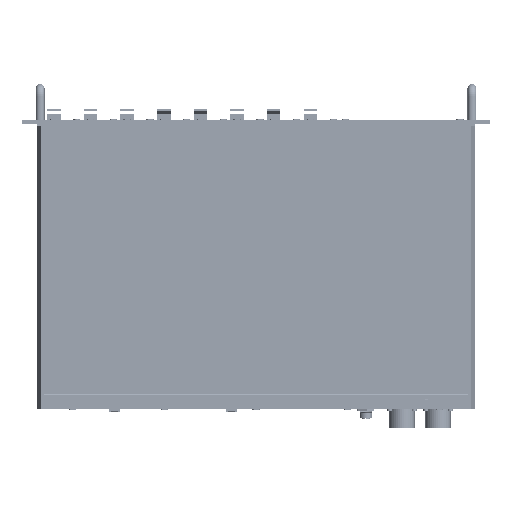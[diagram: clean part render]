
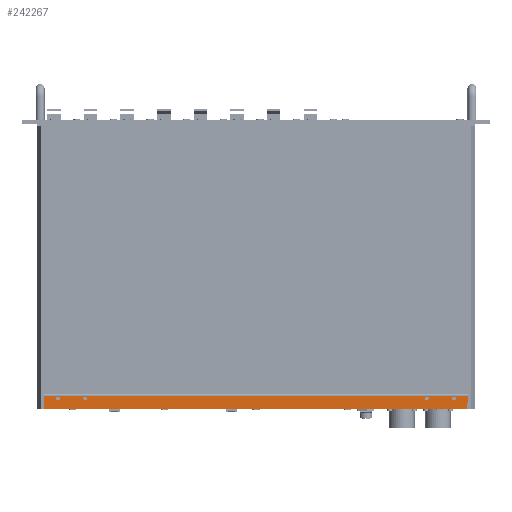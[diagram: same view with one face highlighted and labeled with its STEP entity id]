
A CAD part, front view. The second image highlights one B-rep face of the part: STEP entity #242267.
In plain terms, the highlighted planar face has unit normal (0, -1, 0).
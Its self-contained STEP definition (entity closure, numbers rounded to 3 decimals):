
#9260 = VERTEX_POINT ( 'NONE', #173829 ) ;
#12338 = ORIENTED_EDGE ( 'NONE', *, *, #47868, .F. ) ;
#13663 = CARTESIAN_POINT ( 'NONE',  ( 163.271, 51.251, 158.45 ) ) ;
#17633 = CIRCLE ( 'NONE', #646565, 2.1 ) ;
#22359 = EDGE_CURVE ( 'NONE', #438002, #628099, #455274, .T. ) ;
#43206 = FACE_BOUND ( 'NONE', #233848, .T. ) ;
#43323 = ORIENTED_EDGE ( 'NONE', *, *, #338818, .F. ) ;
#47868 = EDGE_CURVE ( 'NONE', #148248, #128884, #173130, .T. ) ;
#52617 = ORIENTED_EDGE ( 'NONE', *, *, #559470, .F. ) ;
#59604 = AXIS2_PLACEMENT_3D ( 'NONE', #485548, #274115, #160257 ) ;
#61140 = DIRECTION ( 'NONE',  ( 0., -1., 0. ) ) ;
#64409 = CARTESIAN_POINT ( 'NONE',  ( 178.271, 51.251, 161.25 ) ) ;
#69361 = CARTESIAN_POINT ( 'NONE',  ( 163.271, 51.251, 158.45 ) ) ;
#72929 = AXIS2_PLACEMENT_3D ( 'NONE', #238651, #290946, #613680 ) ;
#89006 = EDGE_CURVE ( 'NONE', #423022, #549730, #538747, .T. ) ;
#103605 = ORIENTED_EDGE ( 'NONE', *, *, #229871, .F. ) ;
#106610 = CARTESIAN_POINT ( 'NONE',  ( -290.729, 51.251, 161.25 ) ) ;
#128702 = DIRECTION ( 'NONE',  ( 0., 0., -1. ) ) ;
#128884 = VERTEX_POINT ( 'NONE', #258491 ) ;
#131151 = EDGE_CURVE ( 'NONE', #9260, #495130, #360442, .T. ) ;
#137890 = DIRECTION ( 'NONE',  ( 1., 0., 0. ) ) ;
#148248 = VERTEX_POINT ( 'NONE', #634878 ) ;
#155852 = VERTEX_POINT ( 'NONE', #308033 ) ;
#156460 = VECTOR ( 'NONE', #167592, 1000. ) ;
#160257 = DIRECTION ( 'NONE',  ( 0., 0., 1. ) ) ;
#167592 = DIRECTION ( 'NONE',  ( 0., 0., 1. ) ) ;
#172727 = EDGE_LOOP ( 'NONE', ( #468544, #103605 ) ) ;
#173130 = CIRCLE ( 'NONE', #437589, 2.1 ) ;
#173829 = CARTESIAN_POINT ( 'NONE',  ( -275.729, 51.251, 156.35 ) ) ;
#183938 = EDGE_CURVE ( 'NONE', #647688, #195046, #388948, .T. ) ;
#185597 = DIRECTION ( 'NONE',  ( 0., 0., 1. ) ) ;
#195046 = VERTEX_POINT ( 'NONE', #64409 ) ;
#204512 = FACE_BOUND ( 'NONE', #637909, .T. ) ;
#215733 = CARTESIAN_POINT ( 'NONE',  ( -245.729, 51.251, 156.35 ) ) ;
#229871 = EDGE_CURVE ( 'NONE', #628099, #438002, #543918, .T. ) ;
#230400 = FACE_BOUND ( 'NONE', #172727, .T. ) ;
#233848 = EDGE_LOOP ( 'NONE', ( #436991, #12338 ) ) ;
#234764 = AXIS2_PLACEMENT_3D ( 'NONE', #287788, #456168, #185597 ) ;
#238651 = CARTESIAN_POINT ( 'NONE',  ( 133.271, 51.251, 158.45 ) ) ;
#242267 = ADVANCED_FACE ( 'NONE', ( #204512, #230400, #43206, #578594, #646503 ), #421554, .F. ) ;
#258491 = CARTESIAN_POINT ( 'NONE',  ( 163.271, 51.251, 160.55 ) ) ;
#266531 = EDGE_LOOP ( 'NONE', ( #52617, #500149 ) ) ;
#267189 = DIRECTION ( 'NONE',  ( 1., 0., 0. ) ) ;
#274115 = DIRECTION ( 'NONE',  ( 0., -1., 0. ) ) ;
#276196 = DIRECTION ( 'NONE',  ( 0., -1., 0. ) ) ;
#281353 = DIRECTION ( 'NONE',  ( 0., -1., 0. ) ) ;
#287788 = CARTESIAN_POINT ( 'NONE',  ( -245.729, 51.251, 158.45 ) ) ;
#290946 = DIRECTION ( 'NONE',  ( 0., -1., 0. ) ) ;
#308033 = CARTESIAN_POINT ( 'NONE',  ( -245.729, 51.251, 160.55 ) ) ;
#324041 = DIRECTION ( 'NONE',  ( 0., 0., -1. ) ) ;
#324401 = CARTESIAN_POINT ( 'NONE',  ( -290.729, 51.251, 161.25 ) ) ;
#326151 = CARTESIAN_POINT ( 'NONE',  ( -275.729, 51.251, 158.45 ) ) ;
#337826 = VECTOR ( 'NONE', #401620, 1000. ) ;
#338818 = EDGE_CURVE ( 'NONE', #155852, #396812, #626292, .T. ) ;
#353175 = AXIS2_PLACEMENT_3D ( 'NONE', #499728, #281353, #502102 ) ;
#356186 = CARTESIAN_POINT ( 'NONE',  ( 133.271, 51.251, 160.55 ) ) ;
#360442 = CIRCLE ( 'NONE', #59604, 2.1 ) ;
#361069 = AXIS2_PLACEMENT_3D ( 'NONE', #535477, #433263, #324041 ) ;
#374003 = VECTOR ( 'NONE', #137890, 1000. ) ;
#381630 = ORIENTED_EDGE ( 'NONE', *, *, #183938, .T. ) ;
#385488 = DIRECTION ( 'NONE',  ( 0., 0., 1. ) ) ;
#388948 = LINE ( 'NONE', #617470, #337826 ) ;
#396812 = VERTEX_POINT ( 'NONE', #215733 ) ;
#401359 = EDGE_CURVE ( 'NONE', #128884, #148248, #526933, .T. ) ;
#401620 = DIRECTION ( 'NONE',  ( 0., 0., 1. ) ) ;
#410905 = CIRCLE ( 'NONE', #593675, 2.1 ) ;
#421554 = PLANE ( 'NONE',  #361069 ) ;
#423022 = VERTEX_POINT ( 'NONE', #504296 ) ;
#433263 = DIRECTION ( 'NONE',  ( 0., 1., 0. ) ) ;
#436991 = ORIENTED_EDGE ( 'NONE', *, *, #401359, .F. ) ;
#437589 = AXIS2_PLACEMENT_3D ( 'NONE', #69361, #449142, #128702 ) ;
#438002 = VERTEX_POINT ( 'NONE', #356186 ) ;
#447896 = DIRECTION ( 'NONE',  ( 0., 0., -1. ) ) ;
#449142 = DIRECTION ( 'NONE',  ( 0., -1., 0. ) ) ;
#455274 = CIRCLE ( 'NONE', #353175, 2.1 ) ;
#456168 = DIRECTION ( 'NONE',  ( 0., -1., 0. ) ) ;
#468544 = ORIENTED_EDGE ( 'NONE', *, *, #22359, .F. ) ;
#485548 = CARTESIAN_POINT ( 'NONE',  ( -275.729, 51.251, 158.45 ) ) ;
#495130 = VERTEX_POINT ( 'NONE', #642551 ) ;
#498578 = AXIS2_PLACEMENT_3D ( 'NONE', #13663, #61140, #447896 ) ;
#499668 = ORIENTED_EDGE ( 'NONE', *, *, #89006, .F. ) ;
#499728 = CARTESIAN_POINT ( 'NONE',  ( 133.271, 51.251, 158.45 ) ) ;
#500149 = ORIENTED_EDGE ( 'NONE', *, *, #131151, .F. ) ;
#502102 = DIRECTION ( 'NONE',  ( 0., 0., -1. ) ) ;
#504296 = CARTESIAN_POINT ( 'NONE',  ( -290.729, 51.251, 146.45 ) ) ;
#505588 = ORIENTED_EDGE ( 'NONE', *, *, #679594, .T. ) ;
#526933 = CIRCLE ( 'NONE', #498578, 2.1 ) ;
#535477 = CARTESIAN_POINT ( 'NONE',  ( -290.729, 51.251, 161.25 ) ) ;
#538747 = LINE ( 'NONE', #324401, #156460 ) ;
#543918 = CIRCLE ( 'NONE', #72929, 2.1 ) ;
#546846 = CARTESIAN_POINT ( 'NONE',  ( 133.271, 51.251, 156.35 ) ) ;
#549730 = VERTEX_POINT ( 'NONE', #106610 ) ;
#550735 = CARTESIAN_POINT ( 'NONE',  ( -245.729, 51.251, 158.45 ) ) ;
#559470 = EDGE_CURVE ( 'NONE', #495130, #9260, #17633, .T. ) ;
#569590 = LINE ( 'NONE', #678927, #374003 ) ;
#572847 = EDGE_CURVE ( 'NONE', #396812, #155852, #410905, .T. ) ;
#578594 = FACE_BOUND ( 'NONE', #266531, .T. ) ;
#590081 = CARTESIAN_POINT ( 'NONE',  ( -290.729, 51.251, 161.25 ) ) ;
#590782 = EDGE_LOOP ( 'NONE', ( #381630, #621040, #499668, #505588 ) ) ;
#593675 = AXIS2_PLACEMENT_3D ( 'NONE', #550735, #605309, #645413 ) ;
#605309 = DIRECTION ( 'NONE',  ( 0., -1., 0. ) ) ;
#613680 = DIRECTION ( 'NONE',  ( 0., 0., -1. ) ) ;
#616891 = EDGE_CURVE ( 'NONE', #549730, #195046, #617739, .T. ) ;
#617470 = CARTESIAN_POINT ( 'NONE',  ( 178.271, 51.251, 161.25 ) ) ;
#617739 = LINE ( 'NONE', #590081, #651719 ) ;
#621040 = ORIENTED_EDGE ( 'NONE', *, *, #616891, .F. ) ;
#626292 = CIRCLE ( 'NONE', #234764, 2.1 ) ;
#628099 = VERTEX_POINT ( 'NONE', #546846 ) ;
#634878 = CARTESIAN_POINT ( 'NONE',  ( 163.271, 51.251, 156.35 ) ) ;
#637909 = EDGE_LOOP ( 'NONE', ( #43323, #687507 ) ) ;
#642551 = CARTESIAN_POINT ( 'NONE',  ( -275.729, 51.251, 160.55 ) ) ;
#645413 = DIRECTION ( 'NONE',  ( 0., 0., 1. ) ) ;
#646503 = FACE_OUTER_BOUND ( 'NONE', #590782, .T. ) ;
#646565 = AXIS2_PLACEMENT_3D ( 'NONE', #326151, #276196, #385488 ) ;
#647688 = VERTEX_POINT ( 'NONE', #694159 ) ;
#651719 = VECTOR ( 'NONE', #267189, 1000. ) ;
#678927 = CARTESIAN_POINT ( 'NONE',  ( -290.729, 51.251, 146.45 ) ) ;
#679594 = EDGE_CURVE ( 'NONE', #423022, #647688, #569590, .T. ) ;
#687507 = ORIENTED_EDGE ( 'NONE', *, *, #572847, .F. ) ;
#694159 = CARTESIAN_POINT ( 'NONE',  ( 178.271, 51.251, 146.45 ) ) ;
